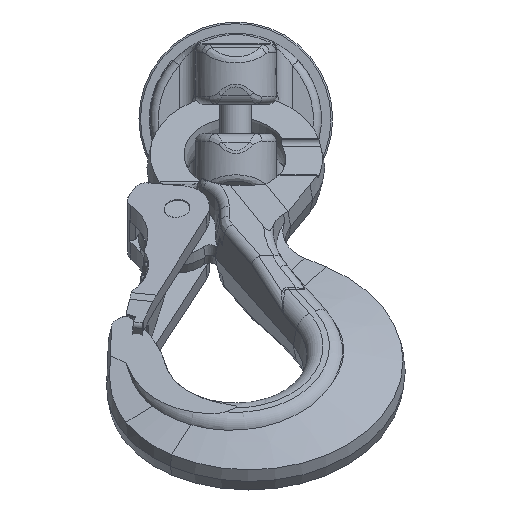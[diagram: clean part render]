
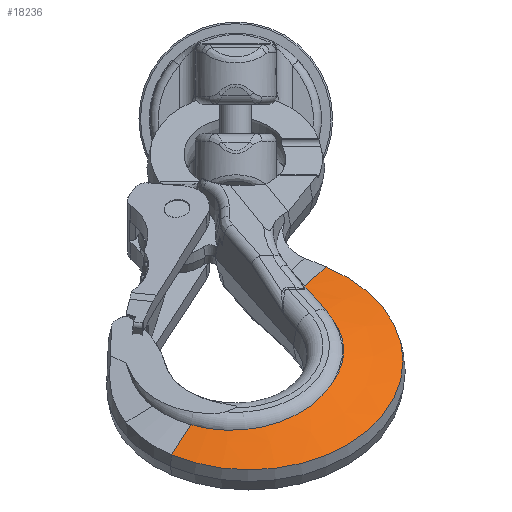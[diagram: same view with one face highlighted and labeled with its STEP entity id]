
A CAD part, left-side view. The second image highlights one B-rep face of the part: STEP entity #18236.
In plain terms, the highlighted conical face has half-angle 76 degrees and reference radius 38.424 mm.
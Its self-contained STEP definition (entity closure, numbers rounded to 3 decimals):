
#14443=CARTESIAN_POINT('',(21.257,7.787,
-29.543));
#14645=CARTESIAN_POINT('',(4.2,4.425,0.));
#14646=DIRECTION('',(0.,-1.,0.));
#14647=DIRECTION('',(0.5,0.,-0.866));
#14648=AXIS2_PLACEMENT_3D('',#14645,#14646,#14647);
#14650=CARTESIAN_POINT('',(-13.89,7.379,
30.835));
#14651=CARTESIAN_POINT('',(-12.755,7.415,
31.334));
#14652=CARTESIAN_POINT('',(-10.422,7.489,
32.211));
#14653=CARTESIAN_POINT('',(-6.773,7.607,
33.133));
#14654=CARTESIAN_POINT('',(-3.038,7.731,
33.637));
#14655=CARTESIAN_POINT('',(0.705,7.858,
33.716));
#14656=CARTESIAN_POINT('',(4.399,7.986,33.382));
#14657=CARTESIAN_POINT('',(8.057,8.117,32.633));
#14658=CARTESIAN_POINT('',(11.623,8.248,31.471));
#14659=CARTESIAN_POINT('',(15.017,8.377,29.924));
#14660=CARTESIAN_POINT('',(18.208,8.501,28.015));
#14661=CARTESIAN_POINT('',(21.171,8.62,25.758));
#14662=CARTESIAN_POINT('',(23.878,8.732,23.169));
#14663=CARTESIAN_POINT('',(26.278,8.835,20.295));
#14664=CARTESIAN_POINT('',(28.348,8.926,17.163));
#14665=CARTESIAN_POINT('',(29.49,8.977,14.93));
#14666=CARTESIAN_POINT('',(29.998,9.,13.783));
#14668=CARTESIAN_POINT('',(29.998,9.,-13.783));
#14669=CARTESIAN_POINT('',(29.712,8.987,
-14.428));
#14670=CARTESIAN_POINT('',(29.101,8.959,
-15.7));
#14671=CARTESIAN_POINT('',(28.413,8.929,
-16.926));
#14672=CARTESIAN_POINT('',(28.051,8.913,
-17.528));
#14674=CARTESIAN_POINT('',(28.051,8.913,
-17.528));
#14675=CARTESIAN_POINT('',(27.708,8.898,
-18.097));
#14676=CARTESIAN_POINT('',(27.05,8.855,
-19.208));
#14677=CARTESIAN_POINT('',(26.143,8.762,
-20.778));
#14678=CARTESIAN_POINT('',(25.288,8.646,
-22.287));
#14679=CARTESIAN_POINT('',(24.468,8.51,
-23.754));
#14680=CARTESIAN_POINT('',(23.662,8.355,
-25.207));
#14681=CARTESIAN_POINT('',(22.862,8.183,
-26.654));
#14682=CARTESIAN_POINT('',(22.063,7.994,
-28.096));
#14683=CARTESIAN_POINT('',(21.526,7.858,
-29.061));
#14684=CARTESIAN_POINT('',(21.257,7.787,
-29.543));
#14686=DIRECTION('',(0.485,-0.242,-0.84));
#14687=VECTOR('',#14686,13.898);
#14688=CARTESIAN_POINT('',(21.257,7.787,
-29.543));
#14689=LINE('',#14688,#14687);
#14690=DIRECTION('',(-0.491,-0.242,0.837));
#14691=VECTOR('',#14690,12.213);
#14692=CARTESIAN_POINT('',(-13.89,7.379,
30.835));
#14693=LINE('',#14692,#14691);
#14702=CARTESIAN_POINT('',(4.2,9.,0.));
#14703=DIRECTION('',(0.,-1.,0.));
#14704=DIRECTION('',(0.882,0.,-0.471));
#14705=AXIS2_PLACEMENT_3D('',#14702,#14703,#14704);
#15009=CARTESIAN_POINT('',(28.,4.425,
-41.222));
#15011=VERTEX_POINT('',#15009);
#15012=CARTESIAN_POINT('',(-19.886,4.425,
41.055));
#15013=VERTEX_POINT('',#15012);
#15061=CARTESIAN_POINT('',(-13.89,7.379,
30.835));
#15062=VERTEX_POINT('',#15061);
#15063=CARTESIAN_POINT('',(29.998,9.,-13.783));
#15064=CARTESIAN_POINT('',(29.998,9.,13.783));
#15065=VERTEX_POINT('',#15063);
#15066=VERTEX_POINT('',#15064);
#15072=VERTEX_POINT('',#14443);
#15073=VERTEX_POINT('',#14674);
#18220=CARTESIAN_POINT('',(4.2,6.712,0.));
#18221=DIRECTION('',(0.,-1.,0.));
#18222=DIRECTION('',(-0.5,0.,0.866));
#18223=AXIS2_PLACEMENT_3D('',#18220,#18221,#18222);
#18224=CONICAL_SURFACE('',#18223,38.424,76.);
#18226=ORIENTED_EDGE('',*,*,#18225,.F.);
#18227=ORIENTED_EDGE('',*,*,#17381,.T.);
#18229=ORIENTED_EDGE('',*,*,#18228,.F.);
#18230=ORIENTED_EDGE('',*,*,#17377,.T.);
#18231=ORIENTED_EDGE('',*,*,#17906,.T.);
#18232=ORIENTED_EDGE('',*,*,#18027,.T.);
#18233=ORIENTED_EDGE('',*,*,#18214,.T.);
#18234=EDGE_LOOP('',(#18226,#18227,#18229,#18230,#18231,#18232,#18233));
#18235=FACE_OUTER_BOUND('',#18234,.F.);
#18236=ADVANCED_FACE('',(#18235),#18224,.T.);
#14649=CIRCLE('',#14648,47.599);
#14667=B_SPLINE_CURVE_WITH_KNOTS('',3,(#14650,#14651,#14652,#14653,#14654,
#14655,#14656,#14657,#14658,#14659,#14660,#14661,#14662,#14663,#14664,#14665,
#14666),.UNSPECIFIED.,.F.,.F.,(4,1,1,1,1,1,1,1,1,1,1,1,1,1,4),(0.,
0.071,0.143,0.214,0.286,
0.357,0.429,0.5,0.571,0.643,
0.714,0.786,0.857,0.929,1.),
.UNSPECIFIED.);
#14673=B_SPLINE_CURVE_WITH_KNOTS('',3,(#14668,#14669,#14670,#14671,#14672),
.UNSPECIFIED.,.F.,.F.,(4,1,4),(0.,0.5,1.),.UNSPECIFIED.);
#14685=B_SPLINE_CURVE_WITH_KNOTS('',3,(#14674,#14675,#14676,#14677,#14678,
#14679,#14680,#14681,#14682,#14683,#14684),.UNSPECIFIED.,.F.,.F.,(4,1,1,1,1,1,1,
1,4),(0.,0.125,0.25,0.375,0.5,0.625,0.75,0.875,1.),
.UNSPECIFIED.);
#14706=CIRCLE('',#14705,29.249);
#17377=EDGE_CURVE('',#15065,#15073,#14673,.T.);
#17381=EDGE_CURVE('',#15062,#15066,#14667,.T.);
#17906=EDGE_CURVE('',#15073,#15072,#14685,.T.);
#18027=EDGE_CURVE('',#15072,#15011,#14689,.T.);
#18214=EDGE_CURVE('',#15011,#15013,#14649,.T.);
#18225=EDGE_CURVE('',#15062,#15013,#14693,.T.);
#18228=EDGE_CURVE('',#15065,#15066,#14706,.T.);
